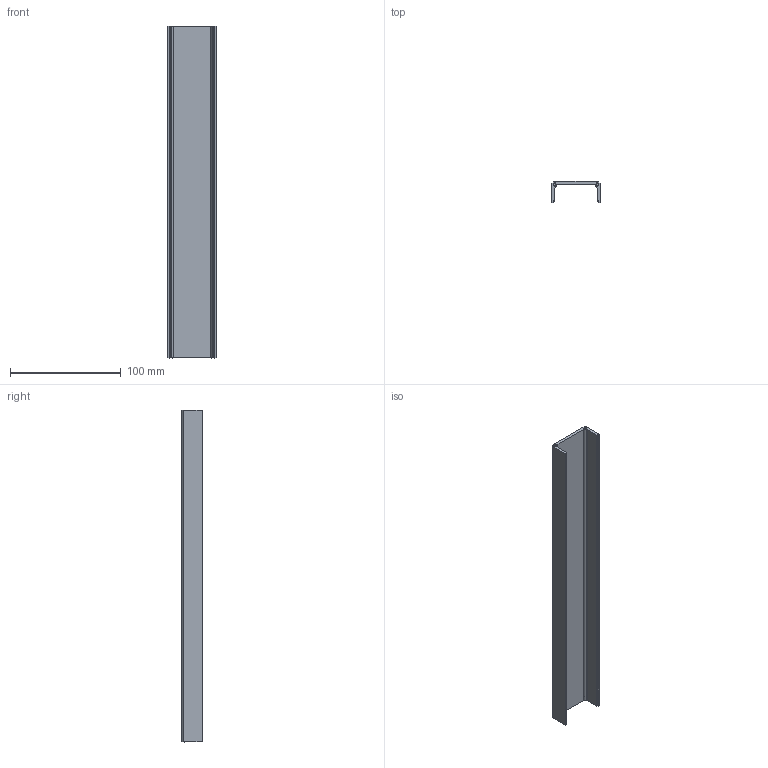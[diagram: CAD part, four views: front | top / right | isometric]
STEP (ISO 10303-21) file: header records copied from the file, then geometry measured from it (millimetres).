
FILE_DESCRIPTION(/* description */ ('VariCAD 2008 3.04 AP-203'),/* implementation_level */ '2;1');
FILE_NAME(/* name */ '0353-11-10',/* time_stamp */ '2009-03-19T18:16:12-06:00',/* author */ (''),/* organization */ (''),/* preprocessor_version */ 'ST-DEVELOPER v12',/* originating_system */ 'VariCAD 2008 3.04; kernel version (20080715)',/* authorisation */ '');
FILE_SCHEMA (('CONFIG_CONTROL_DESIGN'));
Length unit declared in the file: millimetre
Products named in the file (1): Part
Bounding box: 43.5 x 18.5 x 300 mm (x, y, z)
Volume: 57043.9 mm3; surface area: 46233.7 mm2
Topology: 5 solids, 5 shells, 78 faces, 174 edges, 112 vertices
Faces by surface type: cylinder 38, plane 32, cone 8
Entity records: 2260 total; most frequent: DIRECTION 422, CARTESIAN_POINT 370, ORIENTED_EDGE 348, EDGE_CURVE 174, AXIS2_PLACEMENT_3D 164, VERTEX_POINT 112, LINE 94, VECTOR 94
